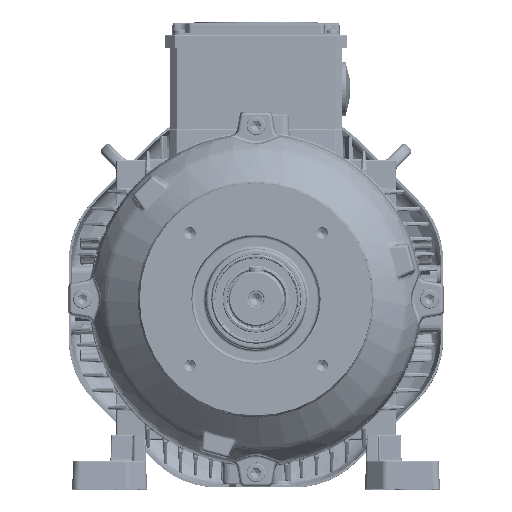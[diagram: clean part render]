
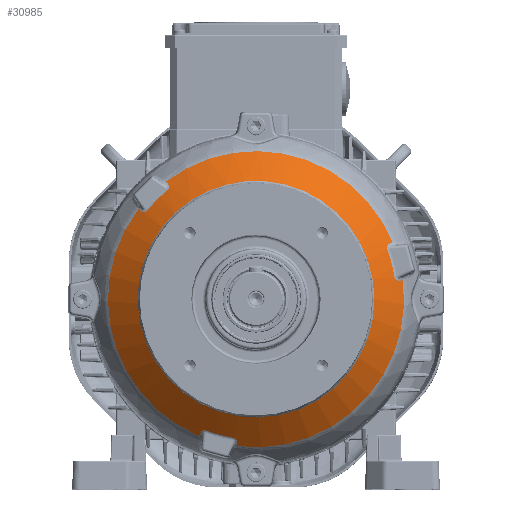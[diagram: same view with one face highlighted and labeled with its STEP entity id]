
A CAD part, top view. The second image highlights one B-rep face of the part: STEP entity #30985.
In plain terms, the highlighted conical face has half-angle 50 degrees and reference radius 102.868 mm.
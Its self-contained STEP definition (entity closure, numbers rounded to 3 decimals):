
#7412=CONICAL_SURFACE('',#252377,102.868,50.);
#11354=FACE_BOUND('',#64174,.T.);
#11355=FACE_BOUND('',#64175,.T.);
#30985=ADVANCED_FACE('',(#11354,#11355),#7412,.T.);
#64174=EDGE_LOOP('',(#143439,#143440,#143441,#143442,#143443,#143444,#143445,
#143446,#143447,#143448,#143449,#143450));
#64175=EDGE_LOOP('',(#143451));
#143439=ORIENTED_EDGE('',*,*,#204515,.T.);
#143440=ORIENTED_EDGE('',*,*,#204516,.T.);
#143441=ORIENTED_EDGE('',*,*,#204517,.T.);
#143442=ORIENTED_EDGE('',*,*,#204518,.T.);
#143443=ORIENTED_EDGE('',*,*,#204519,.T.);
#143444=ORIENTED_EDGE('',*,*,#204520,.T.);
#143445=ORIENTED_EDGE('',*,*,#204521,.T.);
#143446=ORIENTED_EDGE('',*,*,#204522,.T.);
#143447=ORIENTED_EDGE('',*,*,#204523,.T.);
#143448=ORIENTED_EDGE('',*,*,#204524,.T.);
#143449=ORIENTED_EDGE('',*,*,#204525,.T.);
#143450=ORIENTED_EDGE('',*,*,#204526,.T.);
#143451=ORIENTED_EDGE('',*,*,#204514,.F.);
#173886=VERTEX_POINT('',#463800);
#173887=VERTEX_POINT('',#463803);
#173888=VERTEX_POINT('',#463804);
#173889=VERTEX_POINT('',#463813);
#173890=VERTEX_POINT('',#463815);
#173891=VERTEX_POINT('',#463824);
#173892=VERTEX_POINT('',#463826);
#173893=VERTEX_POINT('',#463835);
#173894=VERTEX_POINT('',#463837);
#173895=VERTEX_POINT('',#463846);
#173896=VERTEX_POINT('',#463848);
#173897=VERTEX_POINT('',#463857);
#173898=VERTEX_POINT('',#463859);
#204514=EDGE_CURVE('',#173886,#173886,#228327,.T.);
#204515=EDGE_CURVE('',#173887,#173888,#228328,.T.);
#204516=EDGE_CURVE('',#173888,#173889,#217093,.T.);
#204517=EDGE_CURVE('',#173889,#173890,#228329,.T.);
#204518=EDGE_CURVE('',#173890,#173891,#217094,.T.);
#204519=EDGE_CURVE('',#173891,#173892,#228330,.T.);
#204520=EDGE_CURVE('',#173892,#173893,#217095,.T.);
#204521=EDGE_CURVE('',#173893,#173894,#228331,.T.);
#204522=EDGE_CURVE('',#173894,#173895,#217096,.T.);
#204523=EDGE_CURVE('',#173895,#173896,#228332,.T.);
#204524=EDGE_CURVE('',#173896,#173897,#217097,.T.);
#204525=EDGE_CURVE('',#173897,#173898,#228333,.T.);
#204526=EDGE_CURVE('',#173898,#173887,#217098,.T.);
#217093=B_SPLINE_CURVE_WITH_KNOTS('',3,(#463805,#463806,#463807,#463808,
#463809,#463810,#463811,#463812),.UNSPECIFIED.,.F.,.F.,(4,2,2,4),(0.,0.5,
0.75,1.),.UNSPECIFIED.);
#217094=B_SPLINE_CURVE_WITH_KNOTS('',3,(#463816,#463817,#463818,#463819,
#463820,#463821,#463822,#463823),.UNSPECIFIED.,.F.,.F.,(4,2,2,4),(0.,0.25,
0.5,1.),.UNSPECIFIED.);
#217095=B_SPLINE_CURVE_WITH_KNOTS('',3,(#463827,#463828,#463829,#463830,
#463831,#463832,#463833,#463834),.UNSPECIFIED.,.F.,.F.,(4,2,2,4),(0.,0.5,
0.75,1.),.UNSPECIFIED.);
#217096=B_SPLINE_CURVE_WITH_KNOTS('',3,(#463838,#463839,#463840,#463841,
#463842,#463843,#463844,#463845),.UNSPECIFIED.,.F.,.F.,(4,2,2,4),(0.,0.25,
0.5,1.),.UNSPECIFIED.);
#217097=B_SPLINE_CURVE_WITH_KNOTS('',3,(#463849,#463850,#463851,#463852,
#463853,#463854,#463855,#463856),.UNSPECIFIED.,.F.,.F.,(4,2,2,4),(0.,0.5,
0.75,1.),.UNSPECIFIED.);
#217098=B_SPLINE_CURVE_WITH_KNOTS('',3,(#463860,#463861,#463862,#463863,
#463864,#463865,#463866,#463867),.UNSPECIFIED.,.F.,.F.,(4,2,2,4),(0.,0.25,
0.5,1.),.UNSPECIFIED.);
#228327=CIRCLE('',#252369,82.239);
#228328=CIRCLE('',#252371,102.868);
#228329=CIRCLE('',#252372,97.45);
#228330=CIRCLE('',#252373,102.868);
#228331=CIRCLE('',#252374,97.45);
#228332=CIRCLE('',#252375,102.868);
#228333=CIRCLE('',#252376,97.45);
#252369=AXIS2_PLACEMENT_3D('',#463799,#308317,#308318);
#252371=AXIS2_PLACEMENT_3D('',#463802,#308321,#308322);
#252372=AXIS2_PLACEMENT_3D('',#463814,#308323,#308324);
#252373=AXIS2_PLACEMENT_3D('',#463825,#308325,#308326);
#252374=AXIS2_PLACEMENT_3D('',#463836,#308327,#308328);
#252375=AXIS2_PLACEMENT_3D('',#463847,#308329,#308330);
#252376=AXIS2_PLACEMENT_3D('',#463858,#308331,#308332);
#252377=AXIS2_PLACEMENT_3D('',#463868,#308333,#308334);
#308317=DIRECTION('',(0.,0.,1.));
#308318=DIRECTION('',(1.,0.,0.));
#308321=DIRECTION('',(0.,0.,1.));
#308322=DIRECTION('',(1.,0.,0.));
#308323=DIRECTION('',(0.,0.,1.));
#308324=DIRECTION('',(1.,0.,0.));
#308325=DIRECTION('',(0.,0.,1.));
#308326=DIRECTION('',(1.,0.,0.));
#308327=DIRECTION('',(0.,0.,1.));
#308328=DIRECTION('',(0.,1.,0.));
#308329=DIRECTION('',(0.,0.,1.));
#308330=DIRECTION('',(1.,0.,0.));
#308331=DIRECTION('',(0.,0.,1.));
#308332=DIRECTION('',(0.,1.,0.));
#308333=DIRECTION('',(0.,0.,-1.));
#308334=DIRECTION('',(-1.,0.,0.));
#463799=CARTESIAN_POINT('',(0.004,0.007,55.961));
#463800=CARTESIAN_POINT('',(82.243,0.007,55.96));
#463802=CARTESIAN_POINT('',(0.003,0.006,38.651));
#463803=CARTESIAN_POINT('',(-13.288,-102.,38.655));
#463804=CARTESIAN_POINT('',(102.009,13.297,38.649));
#463805=CARTESIAN_POINT('',(102.009,13.297,38.649));
#463806=CARTESIAN_POINT('',(100.924,12.891,39.596));
#463807=CARTESIAN_POINT('',(99.77,12.722,40.576));
#463808=CARTESIAN_POINT('',(98.064,13.226,41.939));
#463809=CARTESIAN_POINT('',(97.501,13.536,42.373));
#463810=CARTESIAN_POINT('',(96.586,14.539,43.012));
#463811=CARTESIAN_POINT('',(96.26,15.234,43.195));
#463812=CARTESIAN_POINT('',(96.136,15.981,43.195));
#463813=CARTESIAN_POINT('',(96.136,15.981,43.195));
#463814=CARTESIAN_POINT('',(0.003,0.006,43.197));
#463815=CARTESIAN_POINT('',(91.244,34.238,43.194));
#463816=CARTESIAN_POINT('',(91.244,34.238,43.194));
#463817=CARTESIAN_POINT('',(90.978,34.945,43.194));
#463818=CARTESIAN_POINT('',(90.912,35.702,43.015));
#463819=CARTESIAN_POINT('',(91.202,37.036,42.374));
#463820=CARTESIAN_POINT('',(91.532,37.581,41.943));
#463821=CARTESIAN_POINT('',(92.751,38.87,40.585));
#463822=CARTESIAN_POINT('',(93.846,39.307,39.595));
#463823=CARTESIAN_POINT('',(94.989,39.499,38.648));
#463824=CARTESIAN_POINT('',(94.989,39.499,38.648));
#463825=CARTESIAN_POINT('',(0.003,0.006,38.651));
#463826=CARTESIAN_POINT('',(-62.51,81.7,38.648));
#463827=CARTESIAN_POINT('',(-62.51,81.7,38.648));
#463828=CARTESIAN_POINT('',(-61.616,80.963,39.595));
#463829=CARTESIAN_POINT('',(-60.892,80.048,40.574));
#463830=CARTESIAN_POINT('',(-60.475,78.319,41.938));
#463831=CARTESIAN_POINT('',(-60.462,77.676,42.372));
#463832=CARTESIAN_POINT('',(-60.873,76.382,43.011));
#463833=CARTESIAN_POINT('',(-61.312,75.753,43.194));
#463834=CARTESIAN_POINT('',(-61.897,75.272,43.194));
#463835=CARTESIAN_POINT('',(-61.897,75.272,43.194));
#463836=CARTESIAN_POINT('',(0.003,0.006,43.197));
#463837=CARTESIAN_POINT('',(-75.262,61.907,43.195));
#463838=CARTESIAN_POINT('',(-75.262,61.907,43.195));
#463839=CARTESIAN_POINT('',(-75.742,61.323,43.195));
#463840=CARTESIAN_POINT('',(-76.364,60.887,43.016));
#463841=CARTESIAN_POINT('',(-77.665,60.471,42.375));
#463842=CARTESIAN_POINT('',(-78.302,60.484,41.944));
#463843=CARTESIAN_POINT('',(-80.028,60.896,40.586));
#463844=CARTESIAN_POINT('',(-80.954,61.625,39.596));
#463845=CARTESIAN_POINT('',(-81.691,62.519,38.649));
#463846=CARTESIAN_POINT('',(-81.691,62.519,38.649));
#463847=CARTESIAN_POINT('',(0.003,0.006,38.651));
#463848=CARTESIAN_POINT('',(-39.489,-94.979,38.655));
#463849=CARTESIAN_POINT('',(-39.489,-94.979,38.655));
#463850=CARTESIAN_POINT('',(-39.298,-93.836,39.602));
#463851=CARTESIAN_POINT('',(-38.868,-92.752,40.582));
#463852=CARTESIAN_POINT('',(-37.579,-91.527,41.945));
#463853=CARTESIAN_POINT('',(-37.028,-91.194,42.379));
#463854=CARTESIAN_POINT('',(-35.702,-90.903,43.019));
#463855=CARTESIAN_POINT('',(-34.937,-90.968,43.201));
#463856=CARTESIAN_POINT('',(-34.228,-91.234,43.201));
#463857=CARTESIAN_POINT('',(-34.228,-91.234,43.201));
#463858=CARTESIAN_POINT('',(0.003,0.006,43.197));
#463859=CARTESIAN_POINT('',(-15.971,-96.126,43.201));
#463860=CARTESIAN_POINT('',(-15.971,-96.126,43.201));
#463861=CARTESIAN_POINT('',(-15.226,-96.25,43.201));
#463862=CARTESIAN_POINT('',(-14.537,-96.571,43.022));
#463863=CARTESIAN_POINT('',(-13.527,-97.489,42.381));
#463864=CARTESIAN_POINT('',(-13.22,-98.048,41.951));
#463865=CARTESIAN_POINT('',(-12.713,-99.748,40.592));
#463866=CARTESIAN_POINT('',(-12.882,-100.914,39.603));
#463867=CARTESIAN_POINT('',(-13.288,-102.,38.655));
#463868=CARTESIAN_POINT('',(0.003,0.006,38.651));
